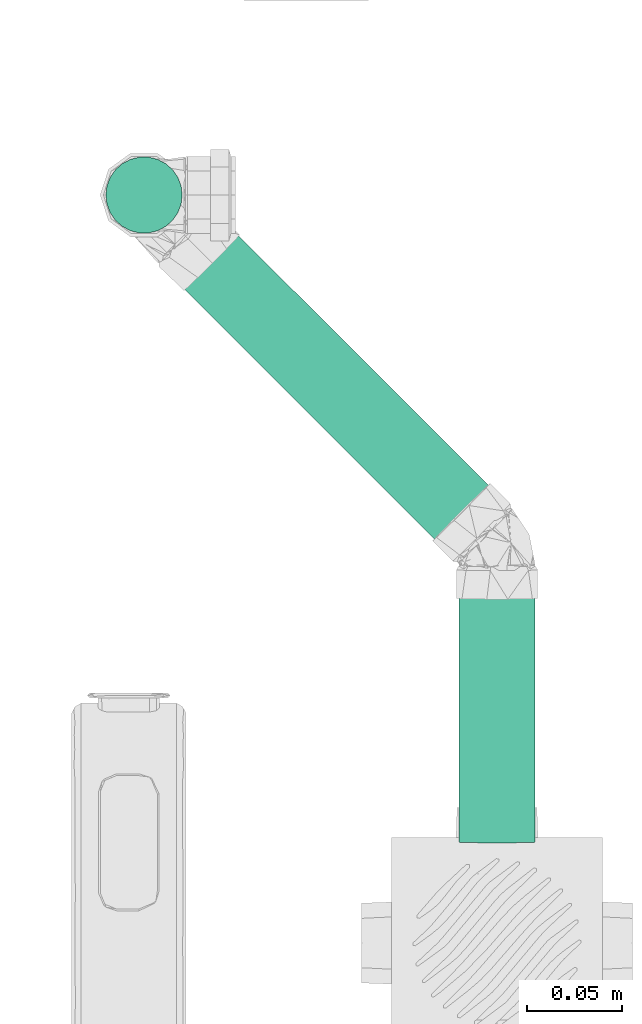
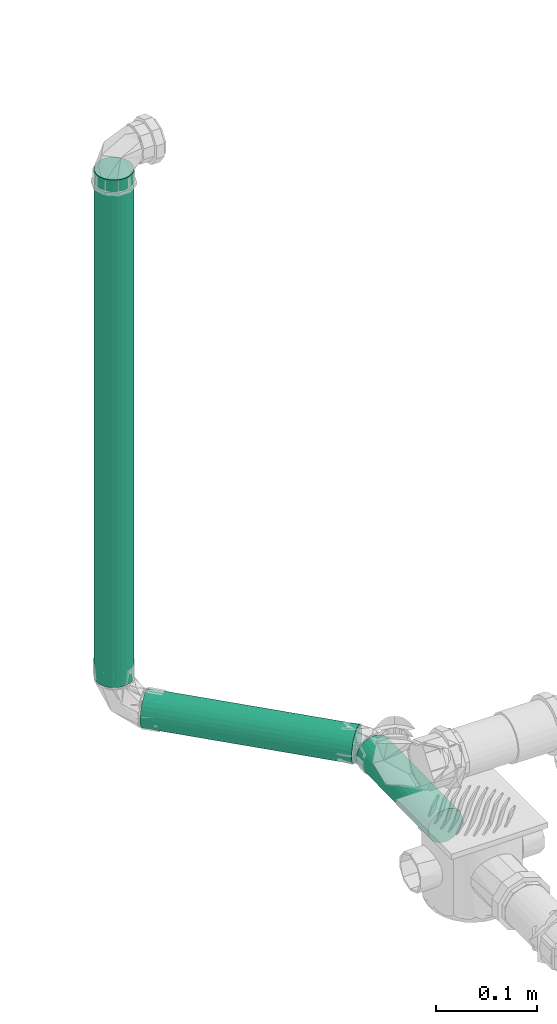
# One storey, part 190 of 589: 3 flow segments.
"""IFC2X3 building model written with IfcOpenShell, lengths in millimetres."""

import ifcopenshell
import ifcopenshell.guid

model = None  # the IFC model being written
_history = None  # IfcOwnerHistory: only IFC2X3 demands one
_inside = {}  # id of a spatial element -> (the spatial element, [elements in it])
_under = {}  # id of a project, library or spatial element -> (it, [spatial elements below it])
_declared = {}  # id of a project -> (the project, [libraries it declares])
_typed = {}  # id of a type object -> (the type object, [elements of that type])
_made_of = {}  # id of a material, layer set ... -> (it, [elements and type objects made of it])


def new_model(schema):
    """Start an empty IFC model of exactly this schema.

    Asked for "IFC4X3", IfcOpenShell would pick the latest addendum, in which some entities
    have other attributes; the version numbers below select the first issue.
    IFC2X3 requires an IfcOwnerHistory on every rooted entity: one is made here for all.
    """
    global model, _history
    if schema == "IFC4X3":
        model = ifcopenshell.file(schema_version=(4, 3, 0, 0))
    else:
        model = ifcopenshell.file(schema=schema)
    _inside.clear()
    _under.clear()
    _declared.clear()
    _typed.clear()
    _made_of.clear()
    _history = None
    if model.schema == "IFC2X3":
        org = make("IfcOrganization", Name="unknown")
        user = make(
            "IfcPersonAndOrganization",
            ThePerson=make("IfcPerson", FamilyName="unknown"),
            TheOrganization=org,
        )
        app = make(
            "IfcApplication",
            ApplicationDeveloper=org,
            Version="unknown",
            ApplicationFullName="unknown",
            ApplicationIdentifier="unknown",
        )
        _history = make(
            "IfcOwnerHistory",
            OwningUser=user,
            OwningApplication=app,
            ChangeAction="ADDED",
            CreationDate=0,
        )
    return model


def make(cls, **values):
    """One entity of the class cls with the attributes given. An attribute that is None is left unset."""
    return model.create_entity(
        cls, **{name: value for name, value in values.items() if value is not None}
    )


def entity(cls, *values):
    """Any entity or typed value of the class cls, its attributes in the order of the schema. None: left unset."""
    e = model.create_entity(cls)
    for i, value in enumerate(values):
        if value is not None:
            e[i] = value
    return e


def rooted(cls, **values):
    """An entity with a GlobalId (a new one), such as an element, a storey or a relation."""
    return make(cls, GlobalId=ifcopenshell.guid.new(), OwnerHistory=_history, **values)


def si_unit(unit_type, name, prefix=None):
    """IfcSIUnit, for example si_unit("LENGTHUNIT", "METRE", prefix="MILLI")."""
    return make("IfcSIUnit", UnitType=unit_type, Prefix=prefix, Name=name)


def converted_unit(unit_type, name, factor, base, dimensions=None, offset=None):
    """IfcConversionBasedUnit, such as the inch: factor (a typed value) times the base unit."""
    return make(
        "IfcConversionBasedUnit"
        if offset is None
        else "IfcConversionBasedUnitWithOffset",
        ConversionOffset=offset,
        Dimensions=None
        if dimensions is None
        else entity("IfcDimensionalExponents", *dimensions),
        UnitType=unit_type,
        Name=name,
        ConversionFactor=make(
            "IfcMeasureWithUnit", ValueComponent=factor, UnitComponent=base
        ),
    )


def derived_unit(unit_type, elements):
    """IfcDerivedUnit: a product of units, each with its exponent."""
    return make(
        "IfcDerivedUnit",
        Elements=[
            make("IfcDerivedUnitElement", Unit=unit, Exponent=power)
            for unit, power in elements
        ],
        UnitType=unit_type,
    )


def assignment(units):
    """IfcUnitAssignment: the units of a project."""
    return None if units is None else make("IfcUnitAssignment", Units=units)


def point(xyz):
    """IfcCartesianPoint."""
    return None if xyz is None else make("IfcCartesianPoint", Coordinates=xyz)


def direction(xyz):
    """IfcDirection."""
    return None if xyz is None else make("IfcDirection", DirectionRatios=xyz)


def frame(location, z_axis=None, x_axis=None):
    """IfcAxis2Placement3D, a coordinate frame: its origin and axes. An axis left out is left unset."""
    return make(
        "IfcAxis2Placement3D",
        Location=point(location),
        Axis=direction(z_axis),
        RefDirection=direction(x_axis),
    )


def frame_2d(location, x_axis=None):
    """IfcAxis2Placement2D, a coordinate frame in the plane: its origin and x axis."""
    return make(
        "IfcAxis2Placement2D", Location=point(location), RefDirection=direction(x_axis)
    )


def origin():
    """The frame at (0, 0, 0) with its axes left unset."""
    return frame((0.0, 0.0, 0.0))


def origin_2d_with_axis():
    """The frame at (0, 0) in the plane with the x axis (1, 0) written out."""
    return frame_2d((0.0, 0.0), x_axis=(1.0, 0.0))


def place(relative_to, where):
    """IfcLocalPlacement: puts the frame where relative to a parent placement (None: the world)."""
    return make(
        "IfcLocalPlacement", PlacementRelTo=relative_to, RelativePlacement=where
    )


def context(
    kind, dimensions, precision=None, world=None, true_north=None, identifier=None
):
    """IfcGeometricRepresentationContext, for example the 3D "Model" context."""
    return make(
        "IfcGeometricRepresentationContext",
        ContextIdentifier=identifier,
        ContextType=kind,
        CoordinateSpaceDimension=dimensions,
        Precision=precision,
        WorldCoordinateSystem=world,
        TrueNorth=true_north,
    )


def subcontext(parent, identifier, kind, view, scale=None):
    """IfcGeometricRepresentationSubContext, for example "Body" below "Model"."""
    return make(
        "IfcGeometricRepresentationSubContext",
        ContextIdentifier=identifier,
        ContextType=kind,
        ParentContext=parent,
        TargetScale=scale,
        TargetView=view,
    )


def project(units=None, contexts=None):
    """IfcProject with its units and contexts."""
    return rooted(
        "IfcProject",
        Name="project",
        RepresentationContexts=contexts,
        UnitsInContext=assignment(units),
    )


def spatial(cls, under=None, at=None, **own):
    """A site, building, storey or space (cls), placed at a placement, below another one or the project."""
    s = rooted(cls, ObjectPlacement=at, **own)
    if under is not None:
        _under.setdefault(under.id(), (under, []))[1].append(s)
    return s


def profile(cls, at=None, kind="AREA", **sizes):
    """A parametric profile (cls). Its sizes go by their IFC names, for example OverallWidth=200.0."""
    return make(cls, ProfileType=kind, Position=at, **sizes)


def circle(**sizes):
    """IfcCircleProfileDef."""
    return profile("IfcCircleProfileDef", **sizes)


def extrude(swept, where, along, depth):
    """IfcExtrudedAreaSolid: the profile swept, set in the frame where, extruded along a direction by depth."""
    return make(
        "IfcExtrudedAreaSolid",
        SweptArea=swept,
        Position=where,
        ExtrudedDirection=direction(along),
        Depth=depth,
    )


def shape(context_of_items, identifier, shape_type, items):
    """IfcShapeRepresentation: the items that make up one representation, for example the "Body"."""
    return make(
        "IfcShapeRepresentation",
        ContextOfItems=context_of_items,
        RepresentationIdentifier=identifier,
        RepresentationType=shape_type,
        Items=items,
    )


def made_of(thing, what):
    """Note that an element or type object is made of a material, layer set ...; save() writes the relation."""
    if what is not None:
        _made_of.setdefault(what.id(), (what, []))[1].append(thing)
    return thing


def type_object(cls, material=None, **own):
    """A type object (cls), such as IfcWallType, which elements share."""
    return made_of(rooted(cls, **own), material)


def element(
    cls,
    number,
    at=None,
    inside=None,
    cuts=None,
    type_object=None,
    material=None,
    context=None,
    identifier="Body",
    shape_type=None,
    held_by="IfcProductDefinitionShape",
    body=None,
    shapes=None,
    **own,
):
    """One element of the class cls, such as IfcWall. Its Tag is "e" and its number.

    at: its placement. inside: the storey or other place that contains it. cuts: it is an
    opening in that element (IfcRelVoidsElement). A single representation is given by context,
    identifier, shape_type and body (its items); several are given by shapes. held_by: the class
    of the entity that holds the representations. save() writes the other relations.
    """
    e = rooted(cls, Tag="e%d" % number, ObjectPlacement=at, **own)
    if body is not None:
        shapes = [shape(context, identifier, shape_type, body)]
    if shapes is not None:
        e.Representation = make(held_by, Representations=shapes)
    if inside is not None:
        _inside.setdefault(inside.id(), (inside, []))[1].append(e)
    if cuts is not None:
        rooted(
            "IfcRelVoidsElement", RelatingBuildingElement=cuts, RelatedOpeningElement=e
        )
    if type_object is not None:
        _typed.setdefault(type_object.id(), (type_object, []))[1].append(e)
    return made_of(e, material)


def aggregate(whole, parts):
    """IfcRelAggregates: a whole, such as a stair, and the parts it consists of."""
    return rooted("IfcRelAggregates", RelatingObject=whole, RelatedObjects=parts)


def save(model, path):
    """Write the relations noted so far, then the file.

    IfcRelAggregates (storeys below a building ...), IfcRelContainedInSpatialStructure (elements
    in a storey), IfcRelDefinesByType, IfcRelAssociatesMaterial and IfcRelDeclares: one each for
    every whole, place, type object, material and project.
    """
    for whole, parts in _under.values():
        aggregate(whole, parts)
    for where, things in _inside.values():
        rooted(
            "IfcRelContainedInSpatialStructure",
            RelatedElements=things,
            RelatingStructure=where,
        )
    for kind, things in _typed.values():
        rooted("IfcRelDefinesByType", RelatedObjects=things, RelatingType=kind)
    for what, things in _made_of.values():
        rooted("IfcRelAssociatesMaterial", RelatedObjects=things, RelatingMaterial=what)
    for by, libraries in _declared.values():
        rooted("IfcRelDeclares", RelatingContext=by, RelatedDefinitions=libraries)
    model.write(path)


model = new_model("IFC2X3")

# Units and contexts
model_context = context("Model", 3, precision=0.01, world=origin(), true_north=direction((6.123031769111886e-17, 1.0)))
body_context = subcontext(model_context, "Body", "Model", "MODEL_VIEW")
ifc_project = project(units=[si_unit("LENGTHUNIT", "METRE", prefix="MILLI"), si_unit("AREAUNIT", "SQUARE_METRE"), si_unit("VOLUMEUNIT", "CUBIC_METRE"), converted_unit("PLANEANGLEUNIT", "DEGREE", entity("IfcRatioMeasure", 0.017453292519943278), si_unit("PLANEANGLEUNIT", "RADIAN"), dimensions=[0, 0, 0, 0, 0, 0, 0]), si_unit("MASSUNIT", "GRAM", prefix="KILO"), derived_unit("MASSDENSITYUNIT", [(si_unit("MASSUNIT", "GRAM", prefix="KILO"), 1), (si_unit("LENGTHUNIT", "METRE"), -3)]), derived_unit("IONCONCENTRATIONUNIT", [(si_unit("MASSUNIT", "GRAM", prefix="KILO"), 1), (si_unit("LENGTHUNIT", "METRE"), -3)]), derived_unit("MOMENTOFINERTIAUNIT", [(si_unit("LENGTHUNIT", "METRE"), 4)]), si_unit("TIMEUNIT", "SECOND"), si_unit("FREQUENCYUNIT", "HERTZ"), si_unit("THERMODYNAMICTEMPERATUREUNIT", "DEGREE_CELSIUS"), derived_unit("THERMALTRANSMITTANCEUNIT", [(si_unit("MASSUNIT", "GRAM", prefix="KILO"), 1), (si_unit("THERMODYNAMICTEMPERATUREUNIT", "KELVIN"), -1), (si_unit("TIMEUNIT", "SECOND"), -3)]), derived_unit("THERMALCONDUCTANCEUNIT", [(si_unit("MASSUNIT", "GRAM", prefix="KILO"), 1), (si_unit("THERMODYNAMICTEMPERATUREUNIT", "KELVIN"), -1), (si_unit("TIMEUNIT", "SECOND"), -3), (si_unit("LENGTHUNIT", "METRE"), 1)]), derived_unit("VOLUMETRICFLOWRATEUNIT", [(si_unit("LENGTHUNIT", "METRE"), 3), (si_unit("TIMEUNIT", "SECOND"), -1)]), derived_unit("MASSFLOWRATEUNIT", [(si_unit("MASSUNIT", "GRAM", prefix="KILO"), 1), (si_unit("TIMEUNIT", "SECOND"), -1)]), derived_unit("ROTATIONALFREQUENCYUNIT", [(si_unit("TIMEUNIT", "SECOND"), -1)]), si_unit("ELECTRICCURRENTUNIT", "AMPERE"), si_unit("ELECTRICVOLTAGEUNIT", "VOLT"), si_unit("POWERUNIT", "WATT"), si_unit("FORCEUNIT", "NEWTON", prefix="KILO"), si_unit("ILLUMINANCEUNIT", "LUX"), si_unit("LUMINOUSFLUXUNIT", "LUMEN"), si_unit("LUMINOUSINTENSITYUNIT", "CANDELA"), derived_unit("USERDEFINED", [(si_unit("MASSUNIT", "GRAM", prefix="KILO"), -1), (si_unit("LENGTHUNIT", "METRE"), -2), (si_unit("TIMEUNIT", "SECOND"), 3), (si_unit("LUMINOUSFLUXUNIT", "LUMEN"), 1)]), derived_unit("USERDEFINED", [(si_unit("MASSUNIT", "GRAM", prefix="KILO"), 1), (si_unit("TIMEUNIT", "SECOND"), -3), (si_unit("LENGTHUNIT", "METRE"), 3), (si_unit("ELECTRICCURRENTUNIT", "AMPERE"), -2)]), derived_unit("SOUNDPOWERUNIT", [(si_unit("MASSUNIT", "GRAM", prefix="KILO"), 1), (si_unit("TIMEUNIT", "SECOND"), -3), (si_unit("LENGTHUNIT", "METRE"), 2)]), derived_unit("SOUNDPRESSUREUNIT", [(si_unit("MASSUNIT", "GRAM", prefix="KILO"), 1), (si_unit("LENGTHUNIT", "METRE"), -1), (si_unit("TIMEUNIT", "SECOND"), -2)]), derived_unit("LINEARVELOCITYUNIT", [(si_unit("LENGTHUNIT", "METRE"), 1), (si_unit("TIMEUNIT", "SECOND"), -1)]), si_unit("PRESSUREUNIT", "PASCAL"), derived_unit("USERDEFINED", [(si_unit("MASSUNIT", "GRAM", prefix="KILO"), 1), (si_unit("LENGTHUNIT", "METRE"), -2), (si_unit("TIMEUNIT", "SECOND"), -2)]), derived_unit("LINEARFORCEUNIT", [(si_unit("MASSUNIT", "GRAM", prefix="KILO"), 1), (si_unit("TIMEUNIT", "SECOND"), -2)]), derived_unit("PLANARFORCEUNIT", [(si_unit("MASSUNIT", "GRAM", prefix="KILO"), 1), (si_unit("LENGTHUNIT", "METRE"), -1), (si_unit("TIMEUNIT", "SECOND"), -2)]), derived_unit("SPECIFICHEATCAPACITYUNIT", [(si_unit("THERMODYNAMICTEMPERATUREUNIT", "KELVIN"), -1), (si_unit("LENGTHUNIT", "METRE"), 2), (si_unit("TIMEUNIT", "SECOND"), -2)]), derived_unit("HEATINGVALUEUNIT", [(si_unit("LENGTHUNIT", "METRE"), 2), (si_unit("TIMEUNIT", "SECOND"), -2)]), derived_unit("VAPORPERMEABILITYUNIT", [(si_unit("LENGTHUNIT", "METRE"), -1), (si_unit("TIMEUNIT", "SECOND"), 1)]), derived_unit("DYNAMICVISCOSITYUNIT", [(si_unit("MASSUNIT", "GRAM", prefix="KILO"), 1), (si_unit("TIMEUNIT", "SECOND"), -1), (si_unit("LENGTHUNIT", "METRE"), -1)]), derived_unit("THERMALEXPANSIONCOEFFICIENTUNIT", [(si_unit("THERMODYNAMICTEMPERATUREUNIT", "KELVIN"), -1)]), derived_unit("MODULUSOFELASTICITYUNIT", [(si_unit("MASSUNIT", "GRAM", prefix="KILO"), 1), (si_unit("LENGTHUNIT", "METRE"), -1), (si_unit("TIMEUNIT", "SECOND"), -2)]), derived_unit("ISOTHERMALMOISTURECAPACITYUNIT", [(si_unit("LENGTHUNIT", "METRE"), 3), (si_unit("MASSUNIT", "GRAM", prefix="KILO"), -1)]), derived_unit("MOISTUREDIFFUSIVITYUNIT", [(si_unit("TIMEUNIT", "SECOND"), -1), (si_unit("LENGTHUNIT", "METRE"), 2)])], contexts=[model_context])

# Site, building, storey
site_placement = place(None, origin())
site = spatial("IfcSite", under=ifc_project, at=site_placement, Name="Default", CompositionType="ELEMENT")
building_placement = place(site_placement, origin())
building = spatial("IfcBuilding", under=site, at=building_placement, CompositionType="ELEMENT")
storey_placement = place(building_placement, frame((0.0, 0.0, 100.0)))
storey = spatial("IfcBuildingStorey", under=building, at=storey_placement, Name="TÉRREO", CompositionType="ELEMENT", Elevation=100.0)

# Flow segments
pipe_segment_type = type_object("IfcPipeSegmentType", Name="Tipos de tubos:PVC Esgoto Série Normal", PredefinedType="NOTDEFINED")
flow_segment_1_placement = place(storey_placement, origin())
element("IfcFlowSegment", 1, at=flow_segment_1_placement, inside=storey, type_object=pipe_segment_type, Name="Tipos de tubos:PVC Esgoto Série Normal", ObjectType="Tipos de tubos:PVC Esgoto Série Normal", context=body_context, shape_type="SweptSolid", body=[
    extrude(circle(Radius=20.0, at=frame_2d((0.0, 1.6916415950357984e-14), x_axis=(1.0, 0.0))), frame((12044.978158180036, -6386.592273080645, -227.7106242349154), z_axis=(0.0, 0.999800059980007, 0.019996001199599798), x_axis=(1.0, 0.0, 0.0)), (0.0, 0.0, 1.0), 142.67421587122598),
])
flow_segment_2_placement = place(storey_placement, origin())
element("IfcFlowSegment", 2, at=flow_segment_2_placement, inside=storey, type_object=pipe_segment_type, Name="Tipos de tubos:PVC Esgoto Série Normal", ObjectType="Tipos de tubos:PVC Esgoto Série Normal", context=body_context, shape_type="SweptSolid", body=[
    extrude(circle(Radius=20.0, at=frame_2d((-2.9351172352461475e-32, -1.691650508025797e-14), x_axis=(1.0, 0.0))), frame((11882.798373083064, -6070.3038465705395, -220.09891805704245), z_axis=(0.7070398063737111, -0.7068984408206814, -0.01973085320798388), x_axis=(-0.7070360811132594, -0.7071774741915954, 0.0)), (0.0, 0.0, 1.0), 217.8809612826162),
])
flow_segment_3_placement = place(storey_placement, origin())
element("IfcFlowSegment", 3, at=flow_segment_3_placement, inside=storey, type_object=pipe_segment_type, Name="Tipos de tubos:PVC Esgoto Série Normal", ObjectType="Tipos de tubos:PVC Esgoto Série Normal", context=body_context, shape_type="SweptSolid", body=[
    extrude(circle(Radius=20.0, at=origin_2d_with_axis()), frame((11860.021256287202, -6047.531283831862, -187.2495822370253)), (0.0, 0.0, 1.0), 616.249589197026),
])

save(model, "model.ifc")
